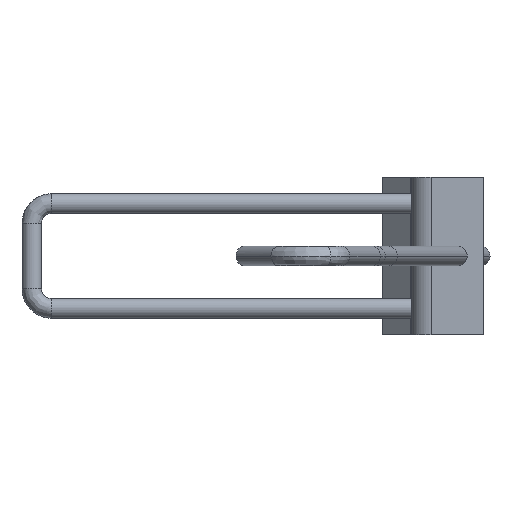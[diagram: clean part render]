
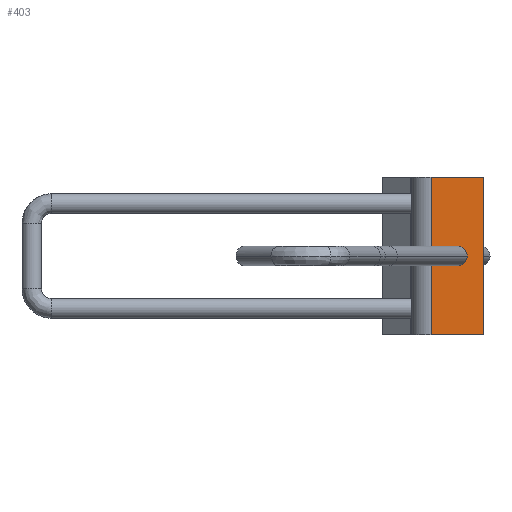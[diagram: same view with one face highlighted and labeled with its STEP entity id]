
A CAD part, left-side view. The second image highlights one B-rep face of the part: STEP entity #403.
In plain terms, the highlighted planar face has unit normal (-1, 0, 0).
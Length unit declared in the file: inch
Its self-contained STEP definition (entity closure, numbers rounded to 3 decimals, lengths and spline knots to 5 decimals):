
#403=ADVANCED_FACE('',(#1066,#1067),#1068,.T.);
#437=EDGE_CURVE('',#1124,#1125,#1126,.T.);
#643=EDGE_CURVE('',#1439,#1440,#1441,.T.);
#659=EDGE_CURVE('',#1125,#1124,#1460,.T.);
#693=EDGE_CURVE('',#1507,#1508,#1509,.T.);
#709=EDGE_CURVE('',#1440,#1508,#1531,.T.);
#821=EDGE_CURVE('',#1439,#1507,#1673,.T.);
#1066=FACE_OUTER_BOUND('',#2029,.T.);
#1067=FACE_BOUND('',#2030,.T.);
#1068=PLANE('',#2031);
#1124=VERTEX_POINT('',#2112);
#1125=VERTEX_POINT('',#2113);
#1126=ELLIPSE('',#2114,0.19058,0.1875);
#1439=VERTEX_POINT('',#2752);
#1440=VERTEX_POINT('',#2753);
#1441=LINE('',#2754,#2755);
#1460=ELLIPSE('',#2780,0.19058,0.1875);
#1507=VERTEX_POINT('',#3122);
#1508=VERTEX_POINT('',#3123);
#1509=LINE('',#3124,#3125);
#1531=LINE('',#3159,#3160);
#1673=LINE('',#3495,#3496);
#2029=EDGE_LOOP('',(#4245,#4246,#4247,#4248));
#2030=EDGE_LOOP('',(#4249,#4250));
#2031=AXIS2_PLACEMENT_3D('',#4251,#4252,#4253);
#2112=CARTESIAN_POINT('',(3.52252,-0.45015,1.5));
#2113=CARTESIAN_POINT('',(3.52252,-0.83131,1.5));
#2114=AXIS2_PLACEMENT_3D('',#4320,#4321,#4322);
#2752=CARTESIAN_POINT('',(3.52252,-1.14678,0.0));
#2753=CARTESIAN_POINT('',(3.52252,-0.14678,0.0));
#2754=CARTESIAN_POINT('',(3.52252,-1.14678,0.0));
#2755=VECTOR('',#4656,1.0);
#2780=AXIS2_PLACEMENT_3D('',#4685,#4686,#4687);
#3122=CARTESIAN_POINT('',(3.52252,-1.14678,3.0));
#3123=CARTESIAN_POINT('',(3.52252,-0.14678,3.0));
#3124=CARTESIAN_POINT('',(3.52252,-1.14678,3.0));
#3125=VECTOR('',#4748,1.0);
#3159=CARTESIAN_POINT('',(3.52252,-0.14678,0.0));
#3160=VECTOR('',#4765,1.0);
#3495=CARTESIAN_POINT('',(3.52252,-1.14678,0.0));
#3496=VECTOR('',#4939,1.0);
#4245=ORIENTED_EDGE('',*,*,#693,.T.);
#4246=ORIENTED_EDGE('',*,*,#709,.F.);
#4247=ORIENTED_EDGE('',*,*,#643,.F.);
#4248=ORIENTED_EDGE('',*,*,#821,.T.);
#4249=ORIENTED_EDGE('',*,*,#437,.F.);
#4250=ORIENTED_EDGE('',*,*,#659,.F.);
#4251=CARTESIAN_POINT('',(3.52252,-0.64678,0.0));
#4252=DIRECTION('',(-1.0,-0.0,0.0));
#4253=DIRECTION('',(0.0,-1.0,-0.0));
#4320=CARTESIAN_POINT('',(3.52252,-0.64073,1.5));
#4321=DIRECTION('',(-1.0,0.0,0.0));
#4322=DIRECTION('',(0.0,-1.0,0.0));
#4656=DIRECTION('',(0.0,1.0,0.0));
#4685=CARTESIAN_POINT('',(3.52252,-0.64073,1.5));
#4686=DIRECTION('',(-1.0,0.0,0.0));
#4687=DIRECTION('',(0.0,-1.0,0.0));
#4748=DIRECTION('',(0.0,1.0,0.0));
#4765=DIRECTION('',(0.0,0.0,1.0));
#4939=DIRECTION('',(0.0,0.0,1.0));
